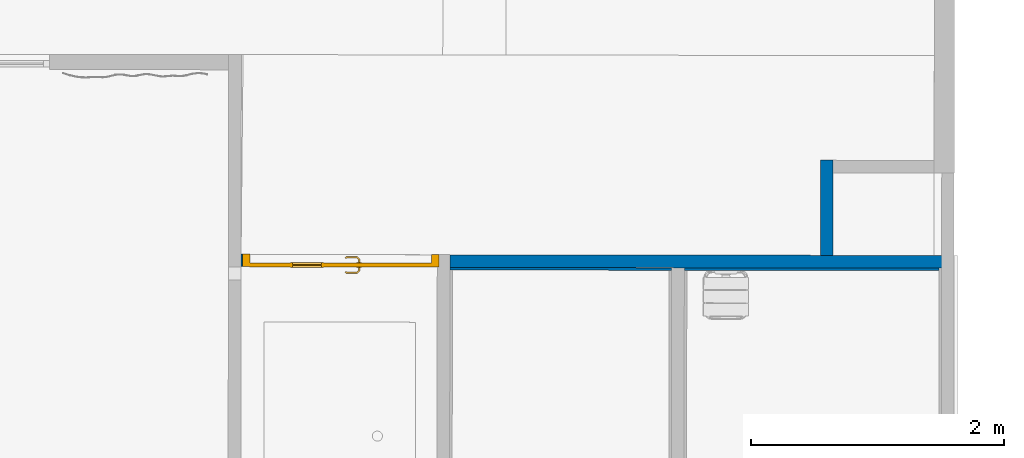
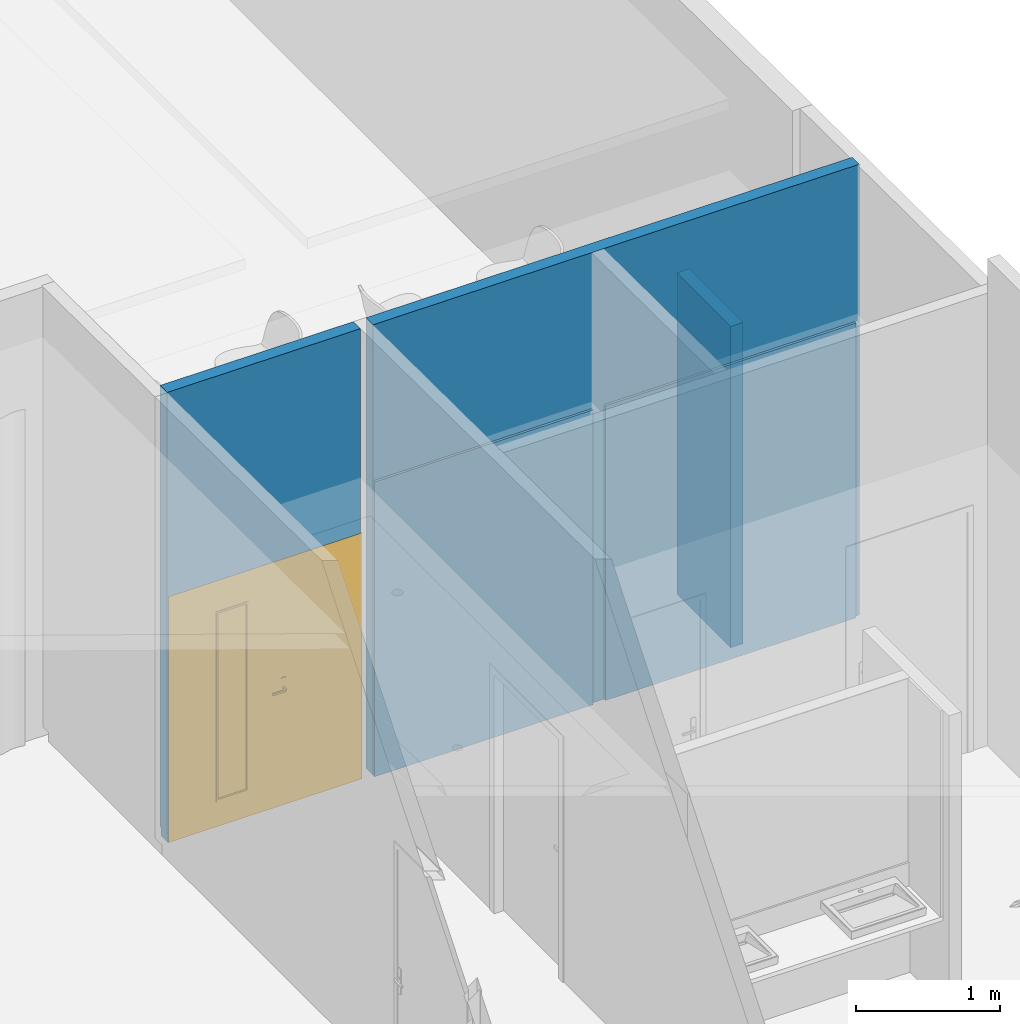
# One storey, part 16 of 43: 5 walls, 1 door, 1 opening.
"""IFC2X3 building model written with IfcOpenShell, lengths in metres."""

from ifc_helpers import new_model, entity, si_unit, converted_unit, derived_unit, direction, frame, frame_2d, origin, place, context, subcontext, project, spatial, polyline, rectangle, outline, extrude, clip, bounded_halfspace, faceted_brep, source, transform, mapped, material, material_list, layer, layer_set, layer_usage, type_object, type_shapes, element, fill, save


model = new_model("IFC2X3")

# Units and contexts
model_context = context("Model", 3, precision=1e-05, world=origin(), true_north=direction((6.123233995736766e-17, 1.0)))
body_context = subcontext(model_context, "Body", "Model", "MODEL_VIEW")
ifc_project = project(units=[si_unit("LENGTHUNIT", "METRE"), si_unit("AREAUNIT", "SQUARE_METRE"), converted_unit("PLANEANGLEUNIT", "DEGREE", entity("IfcPlaneAngleMeasure", 0.017453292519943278), si_unit("PLANEANGLEUNIT", "RADIAN"), dimensions=[0, 0, 0, 0, 0, 0, 0]), derived_unit("THERMALTRANSMITTANCEUNIT", [(si_unit("MASSUNIT", "GRAM", prefix="KILO"), 1), (si_unit("THERMODYNAMICTEMPERATUREUNIT", "KELVIN"), -1), (si_unit("TIMEUNIT", "SECOND"), -3)])], contexts=[model_context])

# Site, building, storey
site_placement = place(None, frame((1253.6752467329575, 2072.143113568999, 91.49999999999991), z_axis=(0.0, 0.0, 1.0), x_axis=(0.7237211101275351, 0.6900925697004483, 0.0)))
site = spatial("IfcSite", under=ifc_project, at=site_placement, Name="Surface", CompositionType="ELEMENT")
building_placement = place(site_placement, origin())
building = spatial("IfcBuilding", under=site, at=building_placement, CompositionType="ELEMENT")
storey_placement = place(building_placement, frame((0.0, 0.0, -4.629999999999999)))
storey = spatial("IfcBuildingStorey", under=building, at=storey_placement, Name="rez de rue -1.10m", CompositionType="ELEMENT", Elevation=-4.629999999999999)

# Wall, opening, door
ifc_material_1 = material(Name="OMD_Cloison 100mm CF1h")
ifc_layer_1 = layer(ifc_material_1, 0.1)
ifc_layer_set_1 = layer_set([ifc_layer_1], Name="Mur de base:Cloison 100mm CF1h")
wall_type_1 = type_object("IfcWallType", Name="Mur de base:Cloison 100mm CF1h", PredefinedType="STANDARD", material=ifc_layer_set_1)
wall_1_placement = place(storey_placement, frame((175.67627035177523, -5.1479527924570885, 0.0), z_axis=(0.0, 0.0, 1.0), x_axis=(0.7227070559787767, -0.691154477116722, 0.0)))
wall_1 = element("IfcWall", 1, at=wall_1_placement, inside=storey, type_object=wall_type_1, Name="Mur de base:Cloison 100mm CF1h", ObjectType="Mur de base:Cloison 100mm CF1h", context=body_context, shape_type="Brep", body=[
    faceted_brep([(0.006911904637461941, -0.05000000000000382, 0.0), (0.011849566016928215, -0.049999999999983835, 0.0), (0.01184956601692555, -0.04999999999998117, 2.085), (1.5487564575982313, -0.05000000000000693, 2.085), (1.5487564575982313, -0.05000000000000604, 3.821571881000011), (2.3611776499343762e-05, -0.04999999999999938, 3.821571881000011), (2.3611776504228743e-05, -0.05000000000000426, 0.08000000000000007), (0.006911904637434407, -0.05000000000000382, 0.08000000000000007), (0.011849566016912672, 0.04999999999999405, 0.0), (0.006888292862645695, 0.05000000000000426, 0.0), (0.006888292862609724, 0.0499999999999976, 0.08000000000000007), (0.0, 0.0499999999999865, 0.08000000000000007), (0.0, 0.049999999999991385, 3.820681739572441), (1.5487564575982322, 0.049999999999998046, 3.8206817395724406), (1.5487564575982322, 0.04999999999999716, 2.085), (0.01184956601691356, 0.049999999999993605, 2.085)], [[[0, 1, 2, 3, 4, 5, 6, 7]], [[8, 9, 10, 11, 12, 13, 14, 15]], [[1, 0, 9, 8]], [[3, 2, 15, 14]], [[15, 2, 1, 8]], [[13, 4, 3, 14]], [[5, 4, 13, 12]], [[11, 10, 7, 6]], [[0, 7, 10, 9]], [[6, 5, 12, 11]]]),
])
opening_placement = place(wall_1_placement, frame((1.5618495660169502, 0.05000000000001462, 0.0)))
opening = element("IfcOpeningElement", 2, at=opening_placement, cuts=wall_1, Name="OMD_Porte 2V tunnel:140x204 +occulus:1", ObjectType="Opening", context=body_context, shape_type="SweptSolid", body=[
    extrude(rectangle(XDim=2.085, YDim=1.5499999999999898, at=frame_2d((1.0425, 0.7749999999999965), x_axis=(1.0, 0.0))), frame((0.0, 0.0, 0.0), z_axis=(0.0, -1.0, 0.0), x_axis=(0.0, 0.0, 1.0)), (0.0, 0.0, 1.0), 0.1),
])
ifc_material_2 = material(Name="<Unnamed>")
ifc_material_3 = material(Name="Porte - Poignée")
ifc_material_4 = material(Name="Verre")
ifc_material_5 = material(Name="OMD_RAL5023")
ifc_material_list = material_list([ifc_material_2, ifc_material_3, ifc_material_4, ifc_material_5])
door_style = type_object("IfcDoorStyle", Name="OMD_Porte 2V tunnel:140x204 +occulus", ConstructionType="NOTDEFINED", OperationType="NOTDEFINED", ParameterTakesPrecedence=False, Sizeable=False, material=ifc_material_list)
shared_shape = source(origin(), body_context, "Body", "Brep", [
    faceted_brep([(1.5049999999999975, 0.030000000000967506, 0.0), (1.5049999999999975, 0.0, 0.0), (0.9749999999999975, 0.0, 0.0), (0.9749999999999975, 0.030000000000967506, 0.0), (1.5049999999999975, 0.030000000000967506, 2.04), (1.5049999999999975, 0.0, 2.04), (0.9749999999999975, 0.0, 2.04), (0.9749999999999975, 0.030000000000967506, 2.04)], [[[0, 1, 2, 3]], [[4, 5, 1, 0]], [[5, 6, 2, 1]], [[6, 7, 3, 2]], [[7, 4, 0, 3]], [[4, 7, 6, 5]]]),
    faceted_brep([(0.9220252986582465, 0.035000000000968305, 1.0077804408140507), (0.9179747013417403, 0.035000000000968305, 1.007780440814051), (0.913999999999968, 0.035000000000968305, 1.00699999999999), (0.913999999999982, 0.035000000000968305, 0.9930000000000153), (0.9179747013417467, 0.035000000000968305, 0.9922195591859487), (0.9220252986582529, 0.035000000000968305, 0.9922195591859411), (0.9260000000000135, 0.035000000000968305, 0.9929999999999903), (0.9260000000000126, 0.035000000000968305, 1.006999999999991), (0.913999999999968, 0.0574852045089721, 1.00699999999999), (0.913999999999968, 0.057485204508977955, 0.9930000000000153), (0.91797470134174, 0.05913157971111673, 1.007780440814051), (0.9220252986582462, 0.06080939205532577, 1.0077804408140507), (0.9058389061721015, 0.07699578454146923, 1.0077804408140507), (0.9041610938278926, 0.07294518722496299, 1.007780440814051), (0.8207931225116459, 0.07294518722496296, 1.0077804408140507), (0.8191153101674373, 0.07699578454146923, 1.0077804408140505), (0.8114510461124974, 0.06933152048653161, 1.0077804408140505), (0.8143152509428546, 0.06646731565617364, 1.0077804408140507), (0.9260000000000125, 0.06245576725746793, 1.006999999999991), (0.9260000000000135, 0.06245576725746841, 0.9929999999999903), (0.9220252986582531, 0.060809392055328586, 0.9922195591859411), (0.9179747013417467, 0.05913157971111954, 0.9922195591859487), (0.9041610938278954, 0.07294518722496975, 0.9922195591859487), (0.9058389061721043, 0.07699578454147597, 0.9922195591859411), (0.8191153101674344, 0.07699578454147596, 0.9922195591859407), (0.8207931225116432, 0.07294518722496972, 0.9922195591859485), (0.8143152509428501, 0.06646731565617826, 0.9922195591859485), (0.8114510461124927, 0.06933152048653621, 0.9922195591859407), (0.9025147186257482, 0.06897048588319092, 1.00699999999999), (0.9025147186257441, 0.06897048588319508, 0.9930000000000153), (0.9074852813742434, 0.08097048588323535, 1.006999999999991), (0.9074852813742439, 0.08097048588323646, 0.9929999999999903), (0.8624771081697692, 0.06897048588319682, 1.0069999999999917), (0.8224394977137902, 0.06897048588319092, 1.0069999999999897), (0.8224394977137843, 0.06897048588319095, 0.9930000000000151), (0.8624771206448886, 0.06897048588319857, 0.9930000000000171), (0.862477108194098, 0.07512492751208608, 1.0078781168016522), (0.8573994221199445, 0.08097048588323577, 1.0069999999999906), (0.8174689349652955, 0.08097048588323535, 1.0069999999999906), (0.8675547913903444, 0.08097048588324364, 0.9929999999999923), (0.817468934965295, 0.08097048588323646, 0.99299999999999), (0.8624771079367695, 0.07512492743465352, 0.9921218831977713), (0.8086405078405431, 0.0721420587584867, 1.0069999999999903), (0.808640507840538, 0.07214205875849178, 0.9929999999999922), (0.8171257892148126, 0.06365677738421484, 0.9930000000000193), (0.8171257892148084, 0.06365677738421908, 1.0069999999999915)], [[[0, 1, 2, 3, 4, 5, 6, 7]], [[8, 9, 3, 2]], [[1, 10, 8, 2]], [[1, 0, 11, 12, 13, 10]], [[14, 15, 16, 17]], [[7, 18, 11, 0]], [[18, 7, 6, 19]], [[6, 5, 20, 19]], [[5, 4, 21, 22, 23, 20]], [[24, 25, 26, 27]], [[4, 3, 9, 21]], [[28, 29, 9, 8]], [[8, 10, 13, 28]], [[18, 30, 12, 11]], [[31, 30, 18, 19]], [[19, 20, 23, 31]], [[21, 9, 29, 22]], [[29, 28, 32, 33, 34, 35]], [[36, 32, 13]], [[37, 38, 15]], [[37, 12, 30]], [[36, 12, 37]], [[14, 32, 36]], [[36, 15, 14]], [[28, 13, 32]], [[32, 14, 33]], [[12, 36, 13]], [[15, 36, 37]], [[30, 31, 39, 40, 38, 37]], [[23, 41, 39]], [[24, 39, 41]], [[39, 31, 23]], [[39, 24, 40]], [[22, 35, 41]], [[41, 23, 22]], [[41, 35, 25]], [[35, 22, 29]], [[34, 25, 35]], [[24, 41, 25]], [[17, 16, 42, 43, 27, 26, 44, 45]], [[45, 44, 34, 33]], [[33, 14, 17, 45]], [[15, 38, 42, 16]], [[43, 42, 38, 40]], [[24, 27, 43, 40]], [[34, 44, 26, 25]]]),
    faceted_brep([(0.9179747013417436, -0.004999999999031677, 1.007780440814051), (0.92202529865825, -0.004999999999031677, 1.0077804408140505), (0.9260000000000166, -0.004999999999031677, 1.0069999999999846), (0.9260000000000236, -0.004999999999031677, 0.9929999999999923), (0.9220252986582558, -0.004999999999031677, 0.992219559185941), (0.9179747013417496, -0.004999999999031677, 0.9922195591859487), (0.9139999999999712, -0.004999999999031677, 0.9930000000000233), (0.9139999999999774, -0.004999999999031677, 1.006999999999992), (0.9220252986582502, -0.031004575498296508, 1.0077804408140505), (0.9260000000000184, -0.03265095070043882, 1.0069999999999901), (0.917974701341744, -0.029326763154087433, 1.007780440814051), (0.9042986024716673, -0.043002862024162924, 1.007780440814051), (0.9059764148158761, -0.047053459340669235, 1.0077804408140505), (0.8191424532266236, -0.047053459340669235, 1.0077804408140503), (0.8208202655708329, -0.043002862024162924, 1.0077804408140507), (0.8143423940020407, -0.036524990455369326, 1.0077804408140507), (0.8114781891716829, -0.03938919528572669, 1.0077804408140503), (0.9139999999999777, -0.02768038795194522, 1.006999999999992), (0.9139999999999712, -0.02768038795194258, 0.9930000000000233), (0.9179747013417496, -0.029326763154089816, 0.9922195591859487), (0.9220252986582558, -0.031004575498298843, 0.992219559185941), (0.9059764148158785, -0.04705345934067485, 0.992219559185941), (0.9042986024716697, -0.04300286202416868, 0.9922195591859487), (0.8208202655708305, -0.04300286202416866, 0.9922195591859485), (0.8191424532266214, -0.04705345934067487, 0.9922195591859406), (0.8114781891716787, -0.03938919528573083, 0.9922195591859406), (0.8143423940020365, -0.03652499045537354, 0.9922195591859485), (0.9260000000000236, -0.03265095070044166, 0.9929999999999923), (0.9076227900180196, -0.051028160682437, 1.0069999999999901), (0.9026522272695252, -0.0390281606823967, 1.006999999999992), (0.9026522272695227, -0.03902816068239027, 0.9930000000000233), (0.907622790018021, -0.051028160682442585, 0.9929999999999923), (0.8625594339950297, -0.045182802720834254, 1.0078781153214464), (0.8676923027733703, -0.051028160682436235, 1.0069999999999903), (0.8174960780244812, -0.05102816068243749, 1.00699999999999), (0.8625594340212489, -0.03902816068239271, 1.0069999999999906), (0.8224666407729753, -0.03902816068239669, 1.0069999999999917), (0.8625594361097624, -0.03902816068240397, 0.9930000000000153), (0.8224666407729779, -0.03902816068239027, 0.9930000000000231), (0.8625594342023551, -0.04518280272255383, 0.9921218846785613), (0.857426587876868, -0.051028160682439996, 0.9929999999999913), (0.8174960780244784, -0.051028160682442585, 0.9929999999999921), (0.8171529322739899, -0.03371445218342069, 0.9930000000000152), (0.8086676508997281, -0.042199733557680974, 0.9929999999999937), (0.8086676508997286, -0.042199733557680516, 1.0069999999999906), (0.8171529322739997, -0.033714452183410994, 1.0069999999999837)], [[[0, 1, 2, 3, 4, 5, 6, 7]], [[2, 1, 8, 9]], [[1, 0, 10, 11, 12, 8]], [[13, 14, 15, 16]], [[0, 7, 17, 10]], [[18, 17, 7, 6]], [[5, 19, 18, 6]], [[5, 4, 20, 21, 22, 19]], [[23, 24, 25, 26]], [[3, 27, 20, 4]], [[9, 27, 3, 2]], [[9, 8, 12, 28]], [[10, 17, 29, 11]], [[30, 29, 17, 18]], [[18, 19, 22, 30]], [[20, 27, 31, 21]], [[28, 31, 27, 9]], [[12, 32, 33]], [[13, 33, 32]], [[33, 28, 12]], [[33, 13, 34]], [[11, 35, 32]], [[32, 12, 11]], [[32, 35, 14]], [[35, 11, 29]], [[36, 14, 35]], [[13, 32, 14]], [[29, 30, 37, 38, 36, 35]], [[39, 37, 22]], [[40, 41, 24]], [[40, 21, 31]], [[39, 21, 40]], [[23, 37, 39]], [[39, 24, 23]], [[30, 22, 37]], [[37, 23, 38]], [[21, 39, 22]], [[24, 39, 40]], [[31, 28, 33, 34, 41, 40]], [[42, 26, 25, 43, 44, 16, 15, 45]], [[13, 16, 44, 34]], [[36, 45, 15, 14]], [[42, 45, 36, 38]], [[38, 23, 26, 42]], [[24, 41, 43, 25]], [[44, 43, 41, 34]]]),
    faceted_brep([(0.9199999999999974, 0.03000000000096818, 0.8646410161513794), (0.9303527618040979, 0.03000000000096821, 0.866003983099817), (0.939999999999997, 0.030000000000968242, 0.8700000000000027), (0.939999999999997, 0.030000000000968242, 1.0800000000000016), (0.9303527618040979, 0.03000000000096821, 1.0839960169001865), (0.9199999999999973, 0.03000000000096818, 1.0853589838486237), (0.9096472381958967, 0.030000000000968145, 1.0839960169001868), (0.8999999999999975, 0.030000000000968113, 1.0800000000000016), (0.8999999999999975, 0.030000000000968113, 0.8700000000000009), (0.9096472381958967, 0.030000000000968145, 0.8660039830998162), (0.9199999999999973, 0.03500000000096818, 1.0853589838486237), (0.9303527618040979, 0.035000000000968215, 1.0839960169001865), (0.939999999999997, 0.03500000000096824, 1.0800000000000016), (0.9399999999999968, 0.03500000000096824, 0.8700000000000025), (0.9303527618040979, 0.035000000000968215, 0.866003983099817), (0.9199999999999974, 0.03500000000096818, 0.8646410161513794), (0.9096472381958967, 0.035000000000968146, 0.8660039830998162), (0.8999999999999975, 0.03500000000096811, 0.8700000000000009), (0.8999999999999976, 0.03500000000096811, 1.0800000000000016), (0.9096472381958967, 0.035000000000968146, 1.0839960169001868)], [[[0, 1, 2, 3, 4, 5, 6, 7, 8, 9]], [[10, 11, 12, 13, 14, 15, 16, 17, 18, 19]], [[6, 19, 18, 7]], [[5, 10, 19, 6]], [[4, 11, 10, 5]], [[4, 3, 12, 11]], [[12, 3, 2, 13]], [[1, 14, 13, 2]], [[0, 15, 14, 1]], [[9, 16, 15, 0]], [[9, 8, 17, 16]], [[17, 8, 7, 18]]]),
    faceted_brep([(0.9199999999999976, -0.004999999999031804, 0.8646410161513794), (0.9303527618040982, -0.00499999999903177, 0.8660039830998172), (0.9399999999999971, -0.0049999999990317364, 0.8700000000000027), (0.939999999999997, -0.0049999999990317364, 1.0800000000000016), (0.9303527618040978, -0.00499999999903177, 1.0839960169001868), (0.9199999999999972, -0.004999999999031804, 1.0853589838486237), (0.9096472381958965, -0.004999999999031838, 1.0839960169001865), (0.8999999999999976, -0.004999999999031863, 1.0800000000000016), (0.8999999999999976, -0.004999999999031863, 0.8700000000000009), (0.9096472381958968, -0.004999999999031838, 0.8660039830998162), (0.939999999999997, 0.0, 1.0800000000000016), (0.9399999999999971, 0.0, 0.8700000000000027), (0.9303527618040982, 0.0, 0.8660039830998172), (0.9199999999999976, 0.0, 0.8646410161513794), (0.9096472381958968, 0.0, 0.8660039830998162), (0.8999999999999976, 0.0, 0.8700000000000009), (0.8999999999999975, 0.0, 1.0800000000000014), (0.9096472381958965, 0.0, 1.0839960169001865), (0.9199999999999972, 0.0, 1.0853589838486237), (0.9303527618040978, 0.0, 1.0839960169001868)], [[[0, 1, 2, 3, 4, 5, 6, 7, 8, 9]], [[10, 11, 12, 13, 14, 15, 16, 17, 18, 19]], [[1, 12, 11, 2]], [[0, 13, 12, 1]], [[9, 14, 13, 0]], [[9, 8, 15, 14]], [[15, 8, 7, 16]], [[6, 17, 16, 7]], [[5, 18, 17, 6]], [[4, 19, 18, 5]], [[4, 3, 10, 19]], [[10, 3, 2, 11]]]),
    faceted_brep([(0.6349999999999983, 0.01100000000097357, 1.820000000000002), (0.38499999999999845, 0.011000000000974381, 1.820000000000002), (0.38499999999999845, 0.011000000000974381, 0.22000000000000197), (0.6349999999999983, 0.01100000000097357, 0.22000000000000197), (0.38499999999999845, 0.019000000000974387, 1.820000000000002), (0.38499999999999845, 0.01900000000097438, 0.22000000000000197), (0.6349999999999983, 0.01900000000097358, 0.22000000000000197), (0.6349999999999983, 0.01900000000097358, 1.820000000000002)], [[[0, 1, 2, 3]], [[2, 1, 4, 5]], [[3, 2, 5, 6]], [[0, 3, 6, 7]], [[7, 6, 5, 4]], [[1, 0, 7, 4]]]),
    faceted_brep([(0.6350000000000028, 0.030000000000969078, 1.820000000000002), (0.6350000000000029, 0.01900000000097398, 1.820000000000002), (0.6350000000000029, 0.01900000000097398, 0.22000000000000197), (0.6350000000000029, 0.030000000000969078, 0.22000000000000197), (0.6250000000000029, 0.01900000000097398, 0.23000000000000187), (0.3950000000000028, 0.01900000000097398, 0.23000000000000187), (0.3950000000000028, 0.01900000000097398, 1.8100000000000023), (0.625000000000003, 0.01900000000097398, 1.8100000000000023), (0.3850000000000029, 0.01900000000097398, 1.820000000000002), (0.38500000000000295, 0.01900000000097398, 0.22000000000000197), (0.3850000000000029, 0.030000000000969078, 0.22000000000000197), (0.3850000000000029, 0.030000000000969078, 1.820000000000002), (0.6400000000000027, 0.030000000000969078, 1.825000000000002), (0.38000000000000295, 0.030000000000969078, 1.825000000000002), (0.38000000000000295, 0.030000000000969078, 0.21500000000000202), (0.6400000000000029, 0.030000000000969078, 0.21500000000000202), (0.6400000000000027, 0.03398525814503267, 1.825000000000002), (0.6400000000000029, 0.03398525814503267, 0.21500000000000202), (0.38000000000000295, 0.03398525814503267, 0.21500000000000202), (0.38000000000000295, 0.03398525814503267, 1.825000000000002), (0.6250000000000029, 0.03398525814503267, 1.8100000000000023), (0.3950000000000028, 0.03398525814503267, 1.8100000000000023), (0.39500000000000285, 0.03398525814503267, 0.23000000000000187), (0.625000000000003, 0.03398525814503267, 0.23000000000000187)], [[[0, 1, 2, 3]], [[4, 5, 6, 7], [1, 8, 9, 2]], [[3, 2, 9, 10]], [[3, 10, 11, 0], [12, 13, 14, 15]], [[16, 12, 15, 17]], [[17, 15, 14, 18]], [[17, 18, 19, 16], [20, 21, 22, 23]], [[7, 20, 23, 4]], [[4, 23, 22, 5]], [[10, 9, 8, 11]], [[18, 14, 13, 19]], [[5, 22, 21, 6]], [[11, 8, 1, 0]], [[19, 13, 12, 16]], [[6, 21, 20, 7]]], outer=[[True], [False, True], [True], [False, True], [True], [True], [True, False], [True], [True], [True], [True], [True], [True], [True], [True]]),
    faceted_brep([(0.6400000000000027, 0.0, 1.825000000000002), (0.6400000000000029, -0.003827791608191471, 1.825000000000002), (0.6400000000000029, -0.003827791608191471, 0.21500000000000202), (0.6400000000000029, 0.0, 0.21500000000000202), (0.6250000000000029, -0.003827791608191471, 0.23000000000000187), (0.3950000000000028, -0.003827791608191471, 0.23000000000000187), (0.3950000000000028, -0.003827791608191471, 1.8100000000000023), (0.625000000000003, -0.003827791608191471, 1.8100000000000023), (0.38000000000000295, -0.003827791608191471, 1.825000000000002), (0.38000000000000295, -0.003827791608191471, 0.21500000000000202), (0.38000000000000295, 0.0, 0.21500000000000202), (0.38000000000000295, 0.0, 1.825000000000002), (0.6350000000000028, 0.0, 1.820000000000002), (0.3850000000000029, 0.0, 1.820000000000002), (0.38500000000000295, 0.0, 0.22000000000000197), (0.6350000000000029, 0.0, 0.22000000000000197), (0.3850000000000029, 0.011000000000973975, 0.22000000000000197), (0.3850000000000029, 0.011000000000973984, 1.820000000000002), (0.6350000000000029, 0.011000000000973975, 0.22000000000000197), (0.6350000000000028, 0.011000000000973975, 1.820000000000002), (0.625000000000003, 0.011000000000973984, 0.23000000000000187), (0.3950000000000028, 0.011000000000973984, 0.23000000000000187), (0.3950000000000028, 0.011000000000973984, 1.8100000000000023), (0.625000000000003, 0.011000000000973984, 1.8100000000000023)], [[[0, 1, 2, 3]], [[4, 5, 6, 7], [1, 8, 9, 2]], [[3, 2, 9, 10]], [[3, 10, 11, 0], [12, 13, 14, 15]], [[10, 9, 8, 11]], [[16, 14, 13, 17]], [[18, 15, 14, 16]], [[19, 12, 15, 18]], [[4, 20, 21, 5]], [[5, 21, 22, 6]], [[7, 23, 20, 4]], [[18, 16, 17, 19], [23, 22, 21, 20]], [[11, 8, 1, 0]], [[17, 13, 12, 19]], [[6, 22, 23, 7]]], outer=[[True], [False, True], [True], [True, False], [True], [True], [True], [True], [True], [True], [True], [True, False], [True], [True], [True]]),
    faceted_brep([(0.3850000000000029, 0.0300000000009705, 0.22000000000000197), (0.38500000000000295, 0.0, 0.22000000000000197), (0.6350000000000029, 0.0, 0.22000000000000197), (0.6350000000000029, 0.030000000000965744, 0.22000000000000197), (0.9750000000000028, 0.030000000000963, 0.0), (0.9750000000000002, 0.0, 0.0), (0.04500000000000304, 0.0, 0.0), (0.04500000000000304, 0.0300000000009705, 0.0), (0.9750000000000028, 0.030000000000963, 2.04), (0.9750000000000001, 0.0, 2.04), (0.38500000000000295, 0.0, 1.820000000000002), (0.6350000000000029, 0.0, 1.820000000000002), (0.04500000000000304, 0.0, 2.04), (0.04500000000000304, 0.0300000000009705, 2.04), (0.6350000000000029, 0.030000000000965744, 1.820000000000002), (0.3850000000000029, 0.030000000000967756, 1.820000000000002)], [[[0, 1, 2, 3]], [[4, 5, 6, 7]], [[8, 9, 5, 4]], [[10, 11, 2, 1], [9, 12, 6, 5]], [[12, 13, 7, 6]], [[14, 15, 0, 3], [13, 8, 4, 7]], [[15, 10, 1, 0]], [[11, 14, 3, 2]], [[8, 13, 12, 9]], [[10, 15, 14, 11]]], outer=[[True], [True], [True], [False, True], [True], [False, True], [True], [True], [True], [True]]),
    faceted_brep([(1.5499999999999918, 0.0, 0.0), (1.5049999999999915, 0.0, 0.0), (1.5049999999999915, 0.0300000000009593, 0.0), (1.4899999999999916, 0.030000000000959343, 0.0), (1.489999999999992, 0.10000000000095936, 0.0), (1.549999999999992, 0.10000000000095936, 0.0), (1.5499999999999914, 0.0, 2.0849999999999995), (0.0, 0.0, 2.0849999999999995), (0.0, 0.0, 0.0), (0.04499999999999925, 0.0, 0.0), (0.04499999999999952, 0.0, 2.0399999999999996), (1.5049999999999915, 0.0, 2.0399999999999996), (1.5049999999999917, 0.0300000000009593, 2.0399999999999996), (0.04499999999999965, 0.030000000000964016, 2.039999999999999), (0.04499999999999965, 0.030000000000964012, 0.0), (0.05999999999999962, 0.030000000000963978, 0.0), (0.05999999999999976, 0.03000000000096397, 2.0249999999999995), (1.4899999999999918, 0.030000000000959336, 2.0249999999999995), (1.489999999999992, 0.10000000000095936, 2.025), (0.05999999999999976, 0.10000000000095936, 2.0249999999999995), (0.05999999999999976, 0.10000000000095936, 0.0), (0.0, 0.10000000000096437, 0.0), (0.0, 0.10000000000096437, 2.0849999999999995), (1.549999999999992, 0.10000000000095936, 2.085)], [[[0, 1, 2, 3, 4, 5]], [[1, 0, 6, 7, 8, 9, 10, 11]], [[2, 1, 11, 12]], [[3, 2, 12, 13, 14, 15, 16, 17]], [[4, 3, 17, 18]], [[5, 4, 18, 19, 20, 21, 22, 23]], [[0, 5, 23, 6]], [[7, 22, 21, 8]], [[8, 21, 20, 15, 14, 9]], [[13, 10, 9, 14]], [[19, 16, 15, 20]], [[12, 11, 10, 13]], [[18, 17, 16, 19]], [[6, 23, 22, 7]]]),
])
type_shapes(door_style, [shared_shape])
door_placement = place(opening_placement, frame((-1.549999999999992, -0.10000000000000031, 0.0)))
door = element("IfcDoor", 3, at=door_placement, inside=storey, type_object=door_style, material=ifc_material_list, Name="OMD_Porte 2V tunnel:140x204 +occulus", ObjectType="OMD_Porte 2V tunnel:140x204 +occulus", OverallHeight=2.085, OverallWidth=1.5499999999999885, context=body_context, shape_type="MappedRepresentation", body=[
    mapped(shared_shape, transform((0.0, 0.0, 0.0), scale=1.0)),
])
fill(opening, door)

# Walls
ifc_layer_usage_1 = layer_usage(ifc_layer_set_1, "AXIS2", "NEGATIVE", 0.05)
wall_2_placement = place(storey_placement, frame((176.86548445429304, -6.289942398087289, 0.0), z_axis=(0.0, 0.0, 1.0), x_axis=(0.7228702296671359, -0.6909838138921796, 0.0)))
element("IfcWallStandardCase", 4, at=wall_2_placement, inside=storey, type_object=wall_type_1, material=ifc_layer_usage_1, Name="Mur de base:Cloison 100mm CF1h", ObjectType="Mur de base:Cloison 100mm CF1h", context=body_context, shape_type="Clipping", body=[
    clip(extrude(outline(polyline([(3.8990648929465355, -0.049999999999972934), (3.8990648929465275, 0.05000000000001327), (3.0240891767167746, 0.050000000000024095), (2.92408917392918, 0.050000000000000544), (2.3611774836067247e-05, 0.05000000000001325), (0.0, -0.04999999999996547), (3.8990648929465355, -0.049999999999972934)])), origin(), (0.0, 0.0, 1.0), 3.8216020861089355), bounded_halfspace(frame((0.0, -0.04999999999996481, 3.821602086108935), z_axis=(2.1016985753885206e-06, 0.008901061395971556, 0.9999603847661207), x_axis=(-0.9999999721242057, 0.00023611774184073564, 0.0)), False, frame((0.0, -0.04999999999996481, 3.821602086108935)), polyline([(0.0, 0.0), (1.7500000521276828, 0.0), (1.8500000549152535, 0.0), (3.8990648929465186, 0.0), (3.8990648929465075, 0.09999999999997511), (2.361177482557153e-05, 0.09999999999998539), (0.0, 0.0)]))),
])
ifc_material_6 = material(Name="OMD_Cloison 100mm")
ifc_layer_2 = layer(ifc_material_6, 0.1)
ifc_layer_set_2 = layer_set([ifc_layer_2], Name="Mur de base:Cloison 100mm")
ifc_layer_usage_2 = layer_usage(ifc_layer_set_2, "AXIS2", "NEGATIVE", 0.05)
wall_type_2 = type_object("IfcWallType", Name="Mur de base:Cloison 100mm", PredefinedType="STANDARD", material=ifc_layer_set_2)
wall_3_placement = place(storey_placement, frame((179.049906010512, -8.308854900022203, 0.0), z_axis=(0.0, 0.0, 1.0), x_axis=(0.6911544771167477, 0.7227070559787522, 0.0)))
element("IfcWallStandardCase", 5, at=wall_3_placement, inside=storey, type_object=wall_type_2, material=ifc_layer_usage_2, Name="Mur de base:Cloison 100mm", ObjectType="Mur de base:Cloison 100mm", context=body_context, shape_type="Clipping", body=[
    clip(extrude(outline(polyline([(0.7501536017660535, -0.04999999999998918), (0.7501536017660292, 0.050000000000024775), (0.0, 0.05000000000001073), (2.3611774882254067e-05, -0.0499999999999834), (0.6501536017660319, -0.04999999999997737), (0.7501536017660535, -0.04999999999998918)])), origin(), (0.0, 0.0, 1.0), 2.725), bounded_halfspace(frame((2.3611774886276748e-05, -0.04999999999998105, 2.7250000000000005), z_axis=(0.0, 0.0, -1.0), x_axis=(0.0, 1.0, 0.0)), True, frame((2.3611774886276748e-05, -0.04999999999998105, 2.7250000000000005)), polyline([(0.0, 0.0), (0.6501299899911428, 0.0), (0.7501299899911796, 0.0), (0.7501299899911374, 0.10000000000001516), (-2.3611774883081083e-05, 0.09999999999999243), (0.0, 0.0)]))),
])
ifc_material_7 = material(Name="OMD faience douche 60*120")
ifc_layer_3 = layer(ifc_material_7, 0.02)
ifc_layer_set_3 = layer_set([ifc_layer_3], Name="Mur de base:faïence douches")
ifc_layer_usage_3 = layer_usage(ifc_layer_set_3, "AXIS2", "POSITIVE", -0.010000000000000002)
wall_type_3 = type_object("IfcWallType", Name="Mur de base:faïence douches", PredefinedType="STANDARD", material=ifc_layer_set_3)
wall_4_placement = place(storey_placement, frame((176.82376976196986, -6.333575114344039, 0.0), z_axis=(0.0, 0.0, 1.0), x_axis=(0.7228702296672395, -0.6909838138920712, 0.0)))
element("IfcWallStandardCase", 6, at=wall_4_placement, inside=storey, type_object=wall_type_3, material=ifc_layer_usage_3, Name="Mur de base:faïence douches", ObjectType="Mur de base:faïence douches", context=body_context, shape_type="SweptSolid", body=[
    extrude(outline(polyline([(1.75000005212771, -0.009999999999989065), (1.7500047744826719, 0.00999999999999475), (4.72235495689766e-06, 0.009999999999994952), (0.0, -0.009999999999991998), (0.02000000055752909, -0.009999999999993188), (1.7300000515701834, -0.00999999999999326), (1.75000005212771, -0.009999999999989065)])), origin(), (0.0, 0.0, 1.0), 2.499999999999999),
])
ifc_layer_usage_4 = layer_usage(ifc_layer_set_3, "AXIS2", "NEGATIVE", 0.010000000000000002)
wall_5_placement = place(storey_placement, frame((179.61504003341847, -9.001215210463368, 0.0), z_axis=(0.0, 0.0, 1.0), x_axis=(-0.7228702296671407, 0.6909838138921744, 0.0)))
element("IfcWallStandardCase", 7, at=wall_5_placement, inside=storey, type_object=wall_type_3, material=ifc_layer_usage_4, Name="Mur de base:faïence douches", ObjectType="Mur de base:faïence douches", context=body_context, shape_type="SweptSolid", body=[
    extrude(outline(polyline([(2.011017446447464, -0.009999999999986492), (2.011022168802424, 0.009999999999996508), (1.9910221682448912, 0.009999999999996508), (4.722354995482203e-06, 0.010000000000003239), (0.0, -0.01000000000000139), (2.011017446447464, -0.009999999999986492)])), origin(), (0.0, 0.0, 1.0), 2.5),
])

save(model, "model.ifc")
